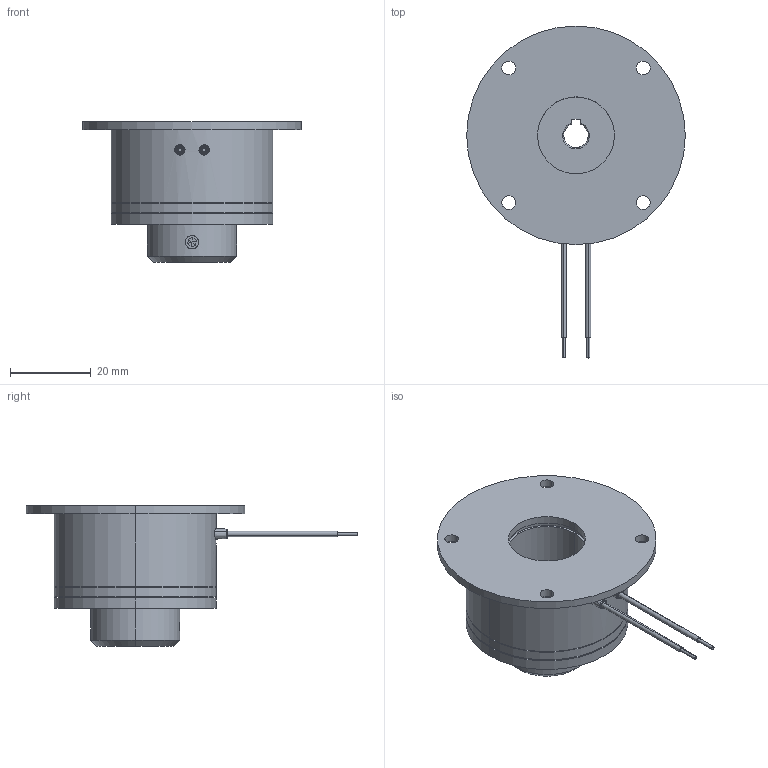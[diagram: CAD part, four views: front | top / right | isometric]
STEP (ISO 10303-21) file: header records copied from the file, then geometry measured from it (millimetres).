
FILE_DESCRIPTION (( 'STEP AP214' ), '1' );
FILE_NAME ('dr_bk_0302-130_mu.STEP', '2021-11-10T09:51:15', ( '' ), ( '' ), 'SwSTEP 2.0', 'SolidWorks 2019', '' );
FILE_SCHEMA (( 'AUTOMOTIVE_DESIGN' ));
Length unit declared in the file: millimetre
Products named in the file (11): 10068743_000_Einbaul„nge 1,7 mm; 10068754_000_M 4 x 4; 10068744_000; 10068683_000; dr_bk_0302-130_mu; 10068751_000; 10068753_000; 10068742_000; 10068746_000; 10068743_000_genietet 2,03mm Klemml„nge; 10068745_000_eingebaut
Assembly tree (19 placements, depth 4):
  dr_bk_0302-130_mu
    10068683_000
    10068751_000
      10068753_000
      10068744_000
        10068746_000
        10068742_000
        10068745_000_eingebaut  x3
        10068743_000_Einbaul„nge 1,7 mm  x3
      10068743_000_genietet 2,03mm Klemml„nge  x3
      10068745_000_eingebaut  x3
      10068754_000_M 4 x 4
Bounding box: 54 x 82 x 34.8 mm (x, y, z)
Volume: 29973.5 mm3; surface area: 16574.3 mm2
Topology: 19 solids, 19 shells, 332 faces, 736 edges, 447 vertices
Faces by surface type: cylinder 153, cone 80, plane 55, torus 32, sphere 12
Entity records: 7733 total; most frequent: CARTESIAN_POINT 1289, DIRECTION 1242, ORIENTED_EDGE 976, AXIS2_PLACEMENT_3D 528, EDGE_CURVE 488, VERTEX_POINT 303, EDGE_LOOP 287, CIRCLE 286
